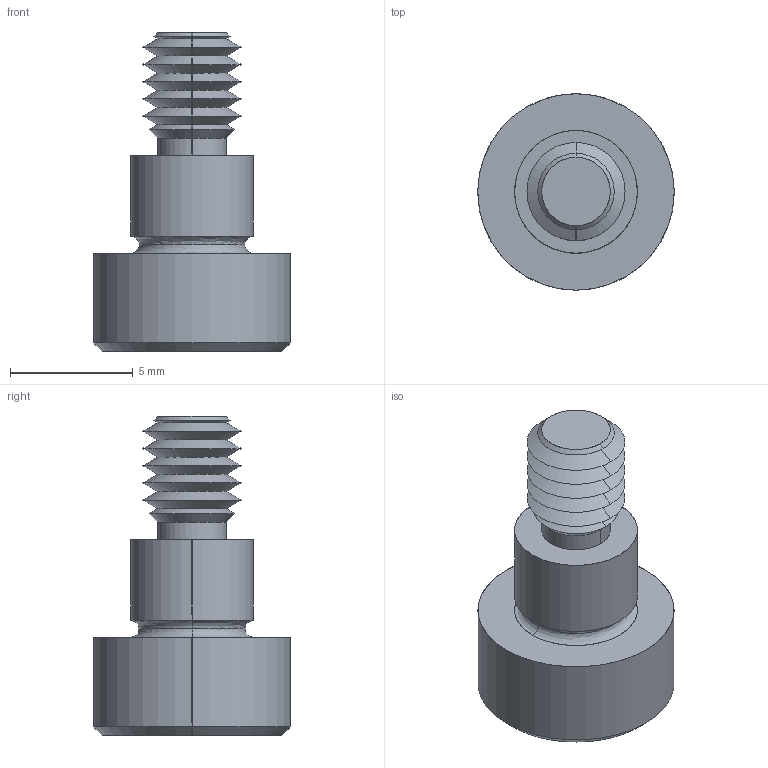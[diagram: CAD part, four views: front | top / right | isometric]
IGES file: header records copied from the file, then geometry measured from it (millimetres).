
Start section: SolidWorks IGES file using analytic representation for surfaces
Global section: file name: C:\Users\IanO\Documents\Temp Folder\GENERAL\SCREW REVISION\P0130_v2\P0130.T5_v2_20220106_IGES\P0130.050-004-T5.igs; native system: SolidWorks 2019; preprocessor: SolidWorks 2019; author: IanO; date: 220106.221237; units: millimetre
Bounding box: 8 x 8 x 13 mm (x, y, z)
Surface area: 378.8 mm2 (no closed solid volume)
Topology: 0 solids, 0 shells, 64 faces, 504 edges, 502 vertices
Faces by surface type: revolution 44, bspline 20
